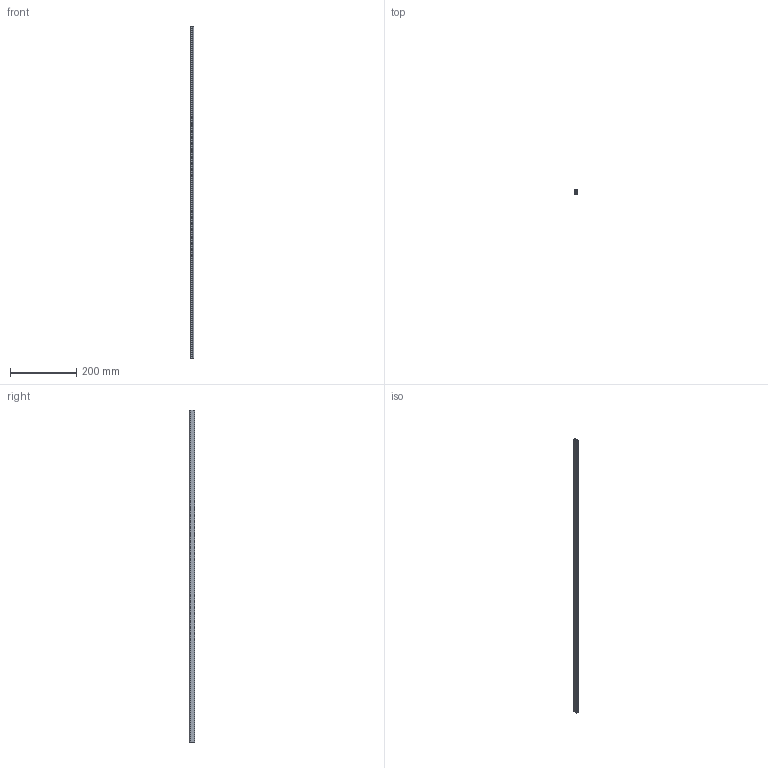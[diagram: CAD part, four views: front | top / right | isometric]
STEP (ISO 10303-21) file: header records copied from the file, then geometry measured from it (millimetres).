
FILE_DESCRIPTION (( 'STEP AP214' ), '1' );
FILE_NAME ('EBET-01.STEP', '2016-02-03T11:39:39', ( '' ), ( '' ), 'SwSTEP 2.0', 'SolidWorks 2012', '' );
FILE_SCHEMA (( 'AUTOMOTIVE_DESIGN' ));
Length unit declared in the file: millimetre
Products named in the file (1): EBET-01
Bounding box: 10.11 x 15.3 x 1000 mm (x, y, z)
Volume: 95072.4 mm3; surface area: 87843.9 mm2
Topology: 1 solids, 1 shells, 35 faces, 99 edges, 66 vertices
Faces by surface type: plane 20, cylinder 15
Entity records: 1177 total; most frequent: CARTESIAN_POINT 201, DIRECTION 201, ORIENTED_EDGE 198, EDGE_CURVE 99, VECTOR 69, LINE 69, VERTEX_POINT 66, AXIS2_PLACEMENT_3D 66
